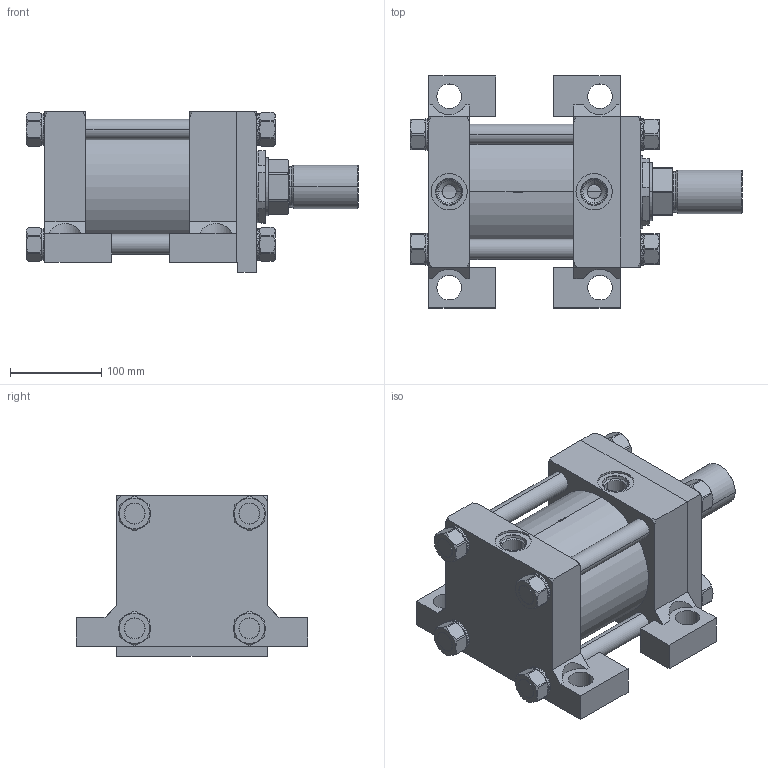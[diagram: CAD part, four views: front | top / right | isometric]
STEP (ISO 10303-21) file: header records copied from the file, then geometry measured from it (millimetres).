
FILE_DESCRIPTION (( 'STEP AP214' ), '1' );
FILE_NAME ('5.00CP2HHNAT134A2.000.step', '2026-03-26T21:15:52', ( '' ), ( '' ), 'SwSTEP 2.0', 'SolidWorks 2023', '' );
FILE_SCHEMA (( 'AUTOMOTIVE_DESIGN' ));
Length unit declared in the file: inch
Products named in the file (1): 5.00CP2HHNAT134A2.000
Bounding box: 363.54 x 254 x 176.21 mm (x, y, z)
Volume: 5405354 mm3; surface area: 721589.4 mm2
Topology: 44 solids, 44 shells, 1221 faces, 3151 edges, 2026 vertices
Faces by surface type: plane 801, cylinder 221, cone 161, bspline 30, torus 8
Entity records: 55314 total; most frequent: CARTESIAN_POINT 11039, ORIENTED_EDGE 6302, DIRECTION 5183, EDGE_CURVE 3151, VERTEX_POINT 2026, AXIS2_PLACEMENT_3D 1756, VECTOR 1671, LINE 1671
